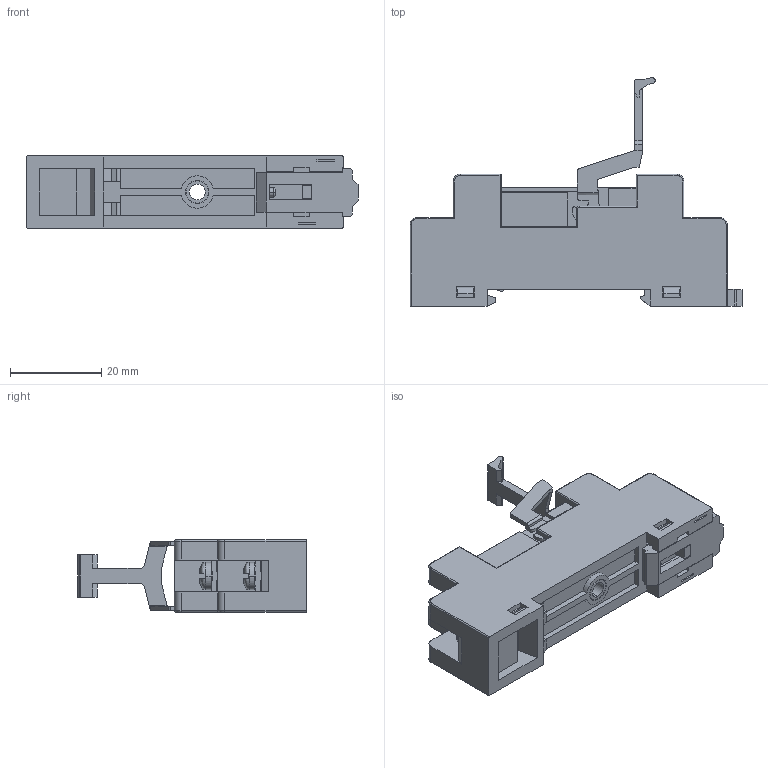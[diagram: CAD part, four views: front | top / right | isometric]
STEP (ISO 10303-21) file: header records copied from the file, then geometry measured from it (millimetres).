
FILE_DESCRIPTION (( 'STEP AP203' ), '1' );
FILE_NAME ('SRT05-A 俋倛.STEP', '2023-08-02T11:25:07', ( 'admin' ), ( '' ), 'SwSTEP 2.0', 'SolidWorks 2022', '' );
FILE_SCHEMA (( 'CONFIG_CONTROL_DESIGN' ));
Products named in the file (1): SRT05-A 俋倛
Bounding box: 72.85 x 50.2 x 15.8 mm (x, y, z)
Volume: 21358.2 mm3; surface area: 11148.1 mm2
Topology: 4 solids, 7 shells, 1322 faces, 3567 edges, 2299 vertices
Faces by surface type: plane 831, cylinder 274, cone 106, torus 64, bspline 47
Entity records: 48868 total; most frequent: CARTESIAN_POINT 16687, ORIENTED_EDGE 7114, DIRECTION 6097, EDGE_CURVE 3557, VECTOR 2309, LINE 2309, VERTEX_POINT 2299, AXIS2_PLACEMENT_3D 1894
